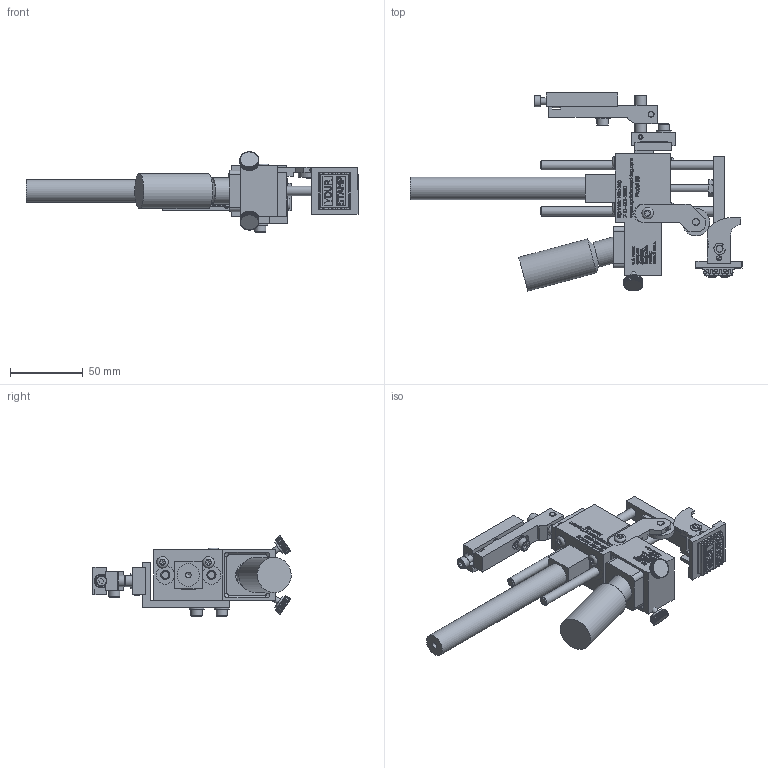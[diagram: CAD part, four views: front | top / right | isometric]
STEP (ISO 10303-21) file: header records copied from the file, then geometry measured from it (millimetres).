
FILE_DESCRIPTION((''),'2;1');
FILE_NAME('C:\Documents and Settings\Ron\My Documents\Inventor\Sprinter Drawing\Machines in Inventor\Model 88\Type\Ext Str\E1\Brkt\90\Model 88 ES1 90 deg w brkt mod 2012.stp','2012-03-16T13:20:46',('Ron'),(''),'Autodesk Inventor 2011','Autodesk Inventor 2011','');
FILE_SCHEMA(('AUTOMOTIVE_DESIGN { 1 0 10303 214 1 1 1 1 }'));
Length unit declared in the file: inch
Products named in the file (44): Model 88  ES1  90 deg w brkt mod 2012; 88 Frame Body; 66 Linear Bearing; Hexagon Socket Button Head Cap Screw - Inch 8 - 32 x 1/4; Hexagon Socket Head Cap Screw - Inch No. 8 - 32 UNC - 1 1/2; 10 Ink Resevior Lock Screw; INK RESERVOIR ASSY; 88 RESERVOIR; 88 Ink Pad; 66 INK BOTTLE; 88 STD Wheel Bractet Assy (prototype); 44 Wheel Retainer; 44 Cam Wheel; 88 Wheel Bracket Arm (prototype); Hexagon Socket Set Screw - Flat Point - Inch 4-48 UNF x 0.19; 8-32x0.25 Hexagon Socket Button Head Cap Screw ANSI/ASME B18.3; E1 90 deg; 88 Rod Carrier 90 deg ES 1; 88 Rod Carrier; Type A - Hexagon Socket Set Screw - Cup Point - Inch 8-32 UNC x 0.32; 66 PIVOT SHAFT; 66 PIVOT SHAFT LOCKING RING; 23 66 invert block; AS 1112 (4)  - Metric M6; 66 Spring; 19 Rod Carrier Set Screws; 88 CLIP FOR MODELS(2); 88--CLIP plate; Hexagon Socket Set Screw - Flat Point - Inch 6-32 UNC x 0.45; 88 baselock (model sized); 88 baselock STAMP; Model 66, E1 .25 x 5; Model 88 RPB; rpb4; rpb3; rpb-1; rpb2; No. 10-24x0.88 Hexagon socket head cap screw ANSI/ASME B18.3; Type B - Plain Washer (Inch) No. 10 - narrow - Type B; 66 Machine Mounting Pivot Bracket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
Assembly tree (59 placements, depth 4):
  Model 88  ES1  90 deg w brkt mod 2012
    88 Frame Body
    66 Linear Bearing  x2
    Hexagon Socket Button Head Cap Screw - Inch 8 - 32 x 1/4  x4
    Hexagon Socket Head Cap Screw - Inch No. 8 - 32 UNC - 1 1/2  x2
    10 Ink Resevior Lock Screw  x2
    INK RESERVOIR ASSY
      88 RESERVOIR
      88 Ink Pad
      66 INK BOTTLE
    88 STD Wheel Bractet Assy (prototype)
      44 Wheel Retainer
      44 Cam Wheel
      88 Wheel Bracket Arm (prototype)
      Hexagon Socket Set Screw - Flat Point - Inch 4-48 UNF x 0.19
    8-32x0.25 Hexagon Socket Button Head Cap Screw ANSI/ASME B18.3
    E1 90 deg
    88 Rod Carrier 90 deg ES 1
      88 Rod Carrier
      Type A - Hexagon Socket Set Screw - Cup Point - Inch 8-32 UNC x 0.32
      66 PIVOT SHAFT
      66 PIVOT SHAFT LOCKING RING  x2
      23 66 invert block
      AS 1112 (4)  - Metric M6
      66 Spring
      19 Rod Carrier Set Screws  x2
      88 CLIP FOR MODELS(2)
        88--CLIP plate
        Hexagon Socket Set Screw - Flat Point - Inch 6-32 UNC x 0.45
        88 baselock (model sized)
        88 baselock STAMP
      Model 66, E1 .25 x 5  x2
    Model 88 RPB
      rpb4
      rpb3
      rpb-1
      rpb2
      No. 10-24x0.88 Hexagon socket head cap screw ANSI/ASME B18.3  x5
      Type B - Plain Washer (Inch) No. 10 - narrow - Type B  x4
      66 Machine Mounting Pivot Bracket
      Pin - Hardened Ground Machine Dowel (Inch) 1/8 x 3/4
      Pin - Hardened Ground Machine Dowel (Inch) 1/8 x 3/8
    Hexagon Socket Set Screw - Flat Point - Inch 8-32 UNC x 0.32
    10-32 PORTS DECAL
Bounding box: 228.74 x 136.58 x 55.4 mm (x, y, z)
Volume: 205323.5 mm3; surface area: 98738.8 mm2
Topology: 427 solids, 427 shells, 6413 faces, 15720 edges, 9736 vertices
Faces by surface type: plane 4465, bspline 1294, cylinder 561, cone 70, torus 23
Full cylindrical faces by diameter (mm): 1.143 x1, 2.261 x1, 2.54 x2, 2.642 x1, 2.845 x1, 3.175 x4, 3.2 x1, 3.302 x14, 3.505 x1, 3.556 x1, 3.683 x2, 3.962 x10, 4.064 x2, 4.166 x11, 4.547 x2, 4.699 x3, 4.75 x4, 4.775 x2, 4.826 x8, 4.864 x2, 4.917 x1, 5.055 x1, 5.156 x7, 5.359 x1, 5.556 x1, 6.325 x4, 6.35 x7, 6.426 x1, 6.604 x1, 6.858 x2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
Entity records: 152765 total; most frequent: CARTESIAN_POINT 45406, ORIENTED_EDGE 23888, DIRECTION 17284, EDGE_CURVE 11944, VECTOR 8532, LINE 8532, VERTEX_POINT 7674, EDGE_LOOP 5354
